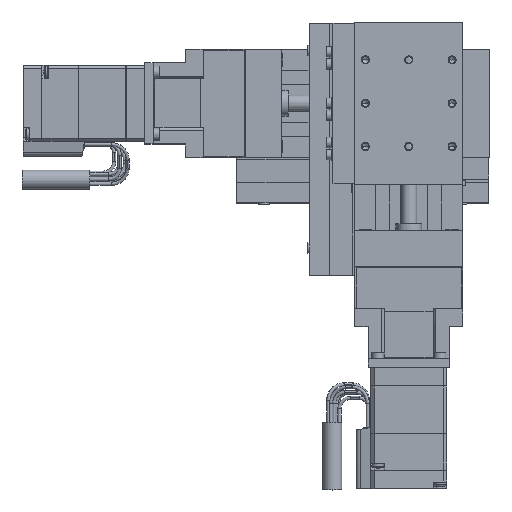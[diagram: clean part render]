
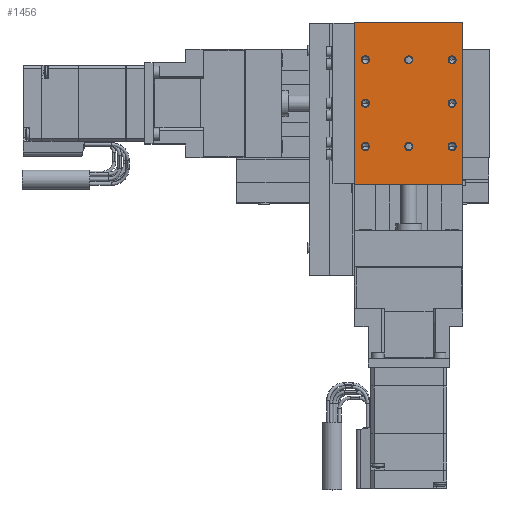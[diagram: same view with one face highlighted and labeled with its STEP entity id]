
A CAD part, top view. The second image highlights one B-rep face of the part: STEP entity #1456.
In plain terms, the highlighted planar face has unit normal (0, 0, 1).
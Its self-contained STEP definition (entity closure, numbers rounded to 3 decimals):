
#1456=ADVANCED_FACE('',(#3825,#3826,#3827,#3828,#3829,#3830,#3831,#3832,#3833),#3834,.F.);
#3825=FACE_BOUND('',#6935,.T.);
#3826=FACE_BOUND('',#6936,.T.);
#3827=FACE_BOUND('',#6937,.T.);
#3828=FACE_BOUND('',#6938,.T.);
#3829=FACE_BOUND('',#6939,.T.);
#3830=FACE_BOUND('',#6940,.T.);
#3831=FACE_BOUND('',#6941,.T.);
#3832=FACE_BOUND('',#6942,.T.);
#3833=FACE_OUTER_BOUND('',#6943,.T.);
#3834=PLANE('',#6944);
#6935=EDGE_LOOP('',(#14843,#14844));
#6936=EDGE_LOOP('',(#14845,#14846));
#6937=EDGE_LOOP('',(#14847,#14848));
#6938=EDGE_LOOP('',(#14849,#14850));
#6939=EDGE_LOOP('',(#14851,#14852));
#6940=EDGE_LOOP('',(#14853,#14854));
#6941=EDGE_LOOP('',(#14855,#14856));
#6942=EDGE_LOOP('',(#14857,#14858));
#6943=EDGE_LOOP('',(#14859,#14860,#14861,#14862));
#6944=AXIS2_PLACEMENT_3D('',#14863,#14864,#14865);
#14843=ORIENTED_EDGE('',*,*,#22322,.T.);
#14844=ORIENTED_EDGE('',*,*,#22233,.T.);
#14845=ORIENTED_EDGE('',*,*,#22301,.T.);
#14846=ORIENTED_EDGE('',*,*,#22249,.T.);
#14847=ORIENTED_EDGE('',*,*,#22350,.T.);
#14848=ORIENTED_EDGE('',*,*,#22171,.T.);
#14849=ORIENTED_EDGE('',*,*,#22351,.T.);
#14850=ORIENTED_EDGE('',*,*,#22202,.T.);
#14851=ORIENTED_EDGE('',*,*,#22352,.T.);
#14852=ORIENTED_EDGE('',*,*,#22185,.T.);
#14853=ORIENTED_EDGE('',*,*,#22274,.T.);
#14854=ORIENTED_EDGE('',*,*,#22263,.T.);
#14855=ORIENTED_EDGE('',*,*,#22353,.T.);
#14856=ORIENTED_EDGE('',*,*,#22215,.T.);
#14857=ORIENTED_EDGE('',*,*,#22347,.T.);
#14858=ORIENTED_EDGE('',*,*,#22224,.T.);
#14859=ORIENTED_EDGE('',*,*,#22354,.T.);
#14860=ORIENTED_EDGE('',*,*,#22355,.F.);
#14861=ORIENTED_EDGE('',*,*,#22333,.F.);
#14862=ORIENTED_EDGE('',*,*,#22356,.T.);
#14863=CARTESIAN_POINT('',(20.,-30.,47.));
#14864=DIRECTION('',(0.,0.,-1.0));
#14865=DIRECTION('',(1.0,0.,0.));
#22171=EDGE_CURVE('',#27170,#27174,#27176,.T.);
#22185=EDGE_CURVE('',#27196,#27200,#27202,.T.);
#22202=EDGE_CURVE('',#27228,#27232,#27234,.T.);
#22215=EDGE_CURVE('',#27251,#27253,#27255,.T.);
#22224=EDGE_CURVE('',#27268,#27270,#27272,.T.);
#22233=EDGE_CURVE('',#27285,#27287,#27289,.T.);
#22249=EDGE_CURVE('',#27311,#27313,#27315,.T.);
#22263=EDGE_CURVE('',#27337,#27341,#27343,.T.);
#22274=EDGE_CURVE('',#27341,#27337,#27358,.T.);
#22301=EDGE_CURVE('',#27313,#27311,#27405,.T.);
#22322=EDGE_CURVE('',#27287,#27285,#27434,.T.);
#22333=EDGE_CURVE('',#27452,#27454,#27455,.T.);
#22347=EDGE_CURVE('',#27270,#27268,#27476,.T.);
#22350=EDGE_CURVE('',#27174,#27170,#27479,.T.);
#22351=EDGE_CURVE('',#27232,#27228,#27480,.T.);
#22352=EDGE_CURVE('',#27200,#27196,#27481,.T.);
#22353=EDGE_CURVE('',#27253,#27251,#27482,.T.);
#22354=EDGE_CURVE('',#27483,#27484,#27485,.T.);
#22355=EDGE_CURVE('',#27454,#27484,#27486,.T.);
#22356=EDGE_CURVE('',#27452,#27483,#27487,.T.);
#27170=VERTEX_POINT('',#34772);
#27174=VERTEX_POINT('',#34777);
#27176=CIRCLE('',#34780,1.5);
#27196=VERTEX_POINT('',#34806);
#27200=VERTEX_POINT('',#34811);
#27202=CIRCLE('',#34814,1.5);
#27228=VERTEX_POINT('',#34846);
#27232=VERTEX_POINT('',#34851);
#27234=CIRCLE('',#34854,1.5);
#27251=VERTEX_POINT('',#34877);
#27253=VERTEX_POINT('',#34880);
#27255=CIRCLE('',#34883,1.5);
#27268=VERTEX_POINT('',#34898);
#27270=VERTEX_POINT('',#34901);
#27272=CIRCLE('',#34904,1.5);
#27285=VERTEX_POINT('',#34919);
#27287=VERTEX_POINT('',#34922);
#27289=CIRCLE('',#34925,1.5);
#27311=VERTEX_POINT('',#34955);
#27313=VERTEX_POINT('',#34958);
#27315=CIRCLE('',#34961,1.5);
#27337=VERTEX_POINT('',#34987);
#27341=VERTEX_POINT('',#34992);
#27343=CIRCLE('',#34995,1.5);
#27358=CIRCLE('',#35016,1.5);
#27405=CIRCLE('',#35083,1.5);
#27434=CIRCLE('',#35125,1.5);
#27452=VERTEX_POINT('',#35148);
#27454=VERTEX_POINT('',#35151);
#27455=LINE('',#35152,#35153);
#27476=CIRCLE('',#35185,1.5);
#27479=CIRCLE('',#35188,1.5);
#27480=CIRCLE('',#35189,1.5);
#27481=CIRCLE('',#35190,1.5);
#27482=CIRCLE('',#35191,1.5);
#27483=VERTEX_POINT('',#35192);
#27484=VERTEX_POINT('',#35193);
#27485=LINE('',#35194,#35195);
#27486=LINE('',#35196,#35197);
#27487=LINE('',#35198,#35199);
#34772=CARTESIAN_POINT('',(14.5,16.,47.));
#34777=CARTESIAN_POINT('',(17.5,16.,47.));
#34780=AXIS2_PLACEMENT_3D('',#42553,#42554,#42555);
#34806=CARTESIAN_POINT('',(-1.5,16.,47.));
#34811=CARTESIAN_POINT('',(1.5,16.,47.));
#34814=AXIS2_PLACEMENT_3D('',#42579,#42580,#42581);
#34846=CARTESIAN_POINT('',(-1.5,-16.,47.));
#34851=CARTESIAN_POINT('',(1.5,-16.,47.));
#34854=AXIS2_PLACEMENT_3D('',#42614,#42615,#42616);
#34877=CARTESIAN_POINT('',(-17.5,0.,47.));
#34880=CARTESIAN_POINT('',(-14.5,0.,47.));
#34883=AXIS2_PLACEMENT_3D('',#42637,#42638,#42639);
#34898=CARTESIAN_POINT('',(-17.5,16.,47.));
#34901=CARTESIAN_POINT('',(-14.5,16.,47.));
#34904=AXIS2_PLACEMENT_3D('',#42656,#42657,#42658);
#34919=CARTESIAN_POINT('',(14.5,-16.,47.));
#34922=CARTESIAN_POINT('',(17.5,-16.,47.));
#34925=AXIS2_PLACEMENT_3D('',#42675,#42676,#42677);
#34955=CARTESIAN_POINT('',(14.5,0.,47.));
#34958=CARTESIAN_POINT('',(17.5,0.,47.));
#34961=AXIS2_PLACEMENT_3D('',#42703,#42704,#42705);
#34987=CARTESIAN_POINT('',(-17.5,-16.,47.));
#34992=CARTESIAN_POINT('',(-14.5,-16.,47.));
#34995=AXIS2_PLACEMENT_3D('',#42733,#42734,#42735);
#35016=AXIS2_PLACEMENT_3D('',#42754,#42755,#42756);
#35083=AXIS2_PLACEMENT_3D('',#42795,#42796,#42797);
#35125=AXIS2_PLACEMENT_3D('',#42832,#42833,#42834);
#35148=CARTESIAN_POINT('',(20.,-30.,47.));
#35151=CARTESIAN_POINT('',(-20.,-30.,47.));
#35152=CARTESIAN_POINT('',(20.,-30.,47.));
#35153=VECTOR('',#42853,1000.0);
#35185=AXIS2_PLACEMENT_3D('',#42871,#42872,#42873);
#35188=AXIS2_PLACEMENT_3D('',#42880,#42881,#42882);
#35189=AXIS2_PLACEMENT_3D('',#42883,#42884,#42885);
#35190=AXIS2_PLACEMENT_3D('',#42886,#42887,#42888);
#35191=AXIS2_PLACEMENT_3D('',#42889,#42890,#42891);
#35192=CARTESIAN_POINT('',(20.,30.,47.));
#35193=CARTESIAN_POINT('',(-20.,30.,47.));
#35194=CARTESIAN_POINT('',(20.,30.,47.));
#35195=VECTOR('',#42892,1000.0);
#35196=CARTESIAN_POINT('',(-20.,-30.,47.));
#35197=VECTOR('',#42893,1000.0);
#35198=CARTESIAN_POINT('',(20.,-30.,47.));
#35199=VECTOR('',#42894,1000.0);
#42553=CARTESIAN_POINT('',(16.,16.,47.));
#42554=DIRECTION('',(0.,0.,-1.0));
#42555=DIRECTION('',(1.0,0.,0.));
#42579=CARTESIAN_POINT('',(0.,16.,47.));
#42580=DIRECTION('',(0.,0.,-1.0));
#42581=DIRECTION('',(1.0,0.,0.));
#42614=CARTESIAN_POINT('',(0.,-16.,47.));
#42615=DIRECTION('',(0.,0.,-1.0));
#42616=DIRECTION('',(1.0,0.,0.));
#42637=CARTESIAN_POINT('',(-16.,0.,47.));
#42638=DIRECTION('',(0.,0.,-1.0));
#42639=DIRECTION('',(1.0,0.,0.));
#42656=CARTESIAN_POINT('',(-16.,16.,47.));
#42657=DIRECTION('',(0.,0.,-1.0));
#42658=DIRECTION('',(1.0,0.,0.));
#42675=CARTESIAN_POINT('',(16.,-16.,47.));
#42676=DIRECTION('',(0.,0.,-1.0));
#42677=DIRECTION('',(1.0,0.,0.));
#42703=CARTESIAN_POINT('',(16.,0.,47.));
#42704=DIRECTION('',(0.,0.,-1.0));
#42705=DIRECTION('',(1.0,0.,0.));
#42733=CARTESIAN_POINT('',(-16.,-16.,47.));
#42734=DIRECTION('',(0.,0.,-1.0));
#42735=DIRECTION('',(1.0,0.,0.));
#42754=CARTESIAN_POINT('',(-16.,-16.,47.));
#42755=DIRECTION('',(0.,0.,-1.0));
#42756=DIRECTION('',(1.0,0.,0.));
#42795=CARTESIAN_POINT('',(16.,0.,47.));
#42796=DIRECTION('',(0.,0.,-1.0));
#42797=DIRECTION('',(1.0,0.,0.));
#42832=CARTESIAN_POINT('',(16.,-16.,47.));
#42833=DIRECTION('',(0.,0.,-1.0));
#42834=DIRECTION('',(1.0,0.,0.));
#42853=DIRECTION('',(-1.0,0.,0.));
#42871=CARTESIAN_POINT('',(-16.,16.,47.));
#42872=DIRECTION('',(0.,0.,-1.0));
#42873=DIRECTION('',(1.0,0.,0.));
#42880=CARTESIAN_POINT('',(16.,16.,47.));
#42881=DIRECTION('',(0.,0.,-1.0));
#42882=DIRECTION('',(1.0,0.,0.));
#42883=CARTESIAN_POINT('',(0.,-16.,47.));
#42884=DIRECTION('',(0.,0.,-1.0));
#42885=DIRECTION('',(1.0,0.,0.));
#42886=CARTESIAN_POINT('',(0.,16.,47.));
#42887=DIRECTION('',(0.,0.,-1.0));
#42888=DIRECTION('',(1.0,0.,0.));
#42889=CARTESIAN_POINT('',(-16.,0.,47.));
#42890=DIRECTION('',(0.,0.,-1.0));
#42891=DIRECTION('',(1.0,0.,0.));
#42892=DIRECTION('',(-1.0,0.,0.));
#42893=DIRECTION('',(0.,1.0,0.));
#42894=DIRECTION('',(0.,1.0,0.));
